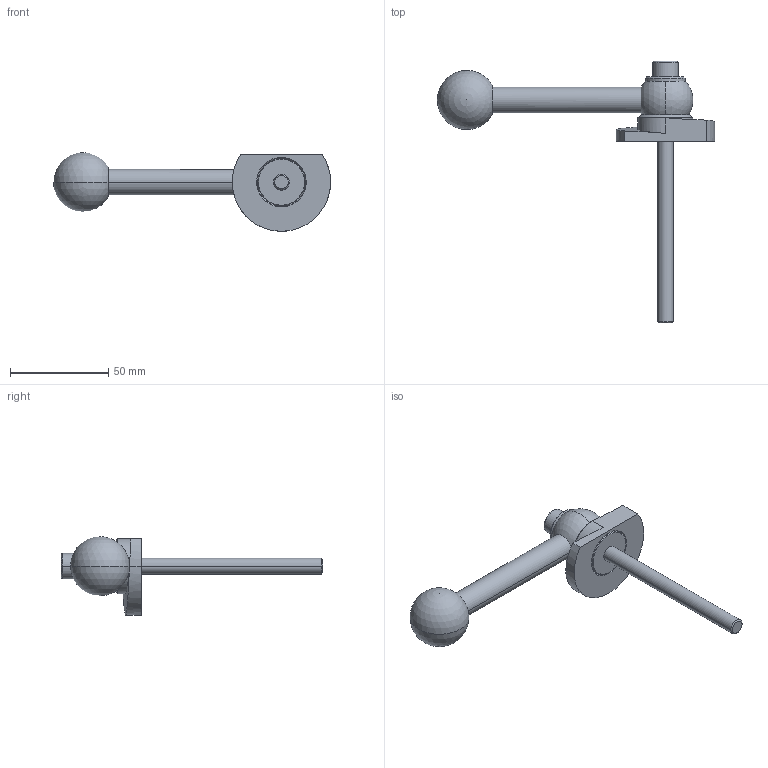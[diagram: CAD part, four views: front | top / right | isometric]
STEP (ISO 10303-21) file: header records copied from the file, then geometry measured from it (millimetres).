
FILE_DESCRIPTION (( 'STEP AP214' ), '1' );
FILE_NAME ('918.1-50-GVS-L-92.step', '2024-05-15T13:01:44', ( '' ), ( '' ), 'SwSTEP 2.0', 'SolidWorks 2022', '' );
FILE_SCHEMA (( 'AUTOMOTIVE_DESIGN' ));
Length unit declared in the file: millimetre
Products named in the file (1): 918.1-50-GVS-L-92
Bounding box: 141 x 133 x 40 mm (x, y, z)
Volume: 55609.2 mm3; surface area: 17656.5 mm2
Topology: 1 solids, 1 shells, 62 faces, 140 edges, 88 vertices
Faces by surface type: plane 20, cylinder 19, cone 14, sphere 4, bspline 3, torus 2
Entity records: 2001 total; most frequent: CARTESIAN_POINT 613, DIRECTION 305, ORIENTED_EDGE 260, EDGE_CURVE 130, AXIS2_PLACEMENT_3D 125, VERTEX_POINT 82, EDGE_LOOP 74, CIRCLE 65
